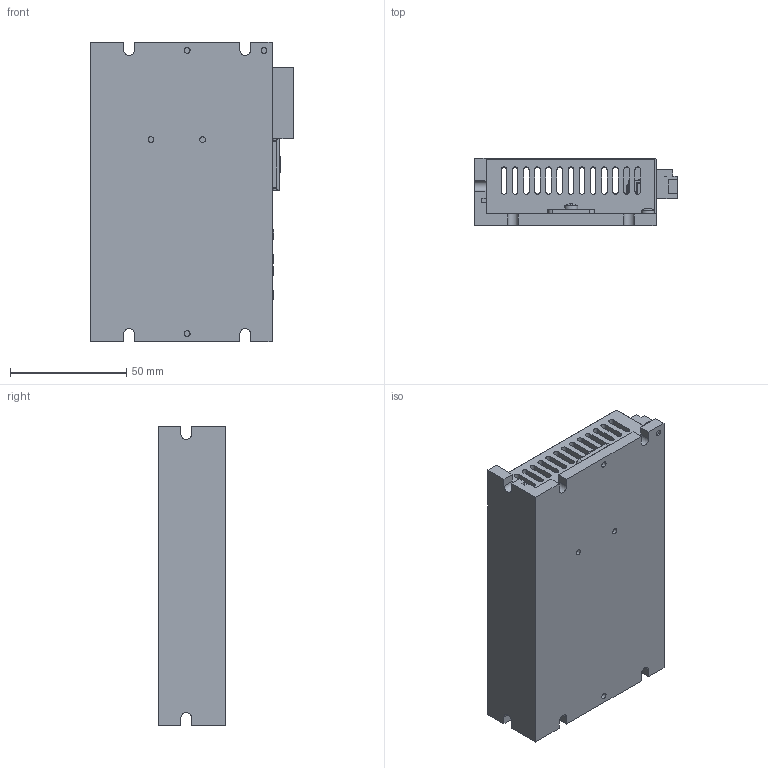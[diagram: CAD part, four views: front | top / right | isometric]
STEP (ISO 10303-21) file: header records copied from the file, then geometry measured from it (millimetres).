
FILE_DESCRIPTION (( 'STEP AP214' ), '1' );
FILE_NAME ('STF05_10-R 3D.STEP', '2019-09-11T18:13:24', ( 'Kevin' ), ( 'Hewlett-Packard Company' ), 'SwSTEP 2.0', 'SolidWorks 2016', '' );
FILE_SCHEMA (( 'AUTOMOTIVE_DESIGN' ));
Length unit declared in the file: millimetre
Products named in the file (7): 4713101002101-A2-190911; 优瑞纳斯对插连接器-22016.10.20-6ping0921; 4299970002265.A00921; cross recessed pan head screws gb_GB_CROSS_SCREWS_TYPE1 M3X4-4  H type-N; ST-BUS-10A奻裔-R-161202淕磁0921; 50164620002016.10.20淕磁0921; STF05_10-R 3D
Assembly tree (12 placements, depth 2):
  STF05_10-R 3D
    50164620002016.10.20淕磁0921
    ST-BUS-10A奻裔-R-161202淕磁0921
    cross recessed pan head screws gb_GB_CROSS_SCREWS_TYPE1 M3X4-4  H type-N  x7
    4299970002265.A00921
    优瑞纳斯对插连接器-22016.10.20-6ping0921
    4713101002101-A2-190911
Bounding box: 87.4 x 29 x 129 mm (x, y, z)
Volume: 114276.3 mm3; surface area: 89367.4 mm2
Topology: 18 solids, 18 shells, 2979 faces, 8207 edges, 5441 vertices
Faces by surface type: plane 2313, cylinder 473, bspline 180, cone 13
Full cylindrical faces by diameter (mm): 0.8 x16, 0.9 x20, 1 x24, 1.3 x6, 2.5 x7, 2.9 x2, 3 x7, 3.2 x2, 3.3 x4, 3.5 x4, 3.9 x6, 4.2 x6, 5 x2, 5.6 x7
Entity records: 101041 total; most frequent: CARTESIAN_POINT 26390, ORIENTED_EDGE 15512, DIRECTION 13352, EDGE_CURVE 7756, LINE 6416, VECTOR 6416, VERTEX_POINT 5212, AXIS2_PLACEMENT_3D 3468
